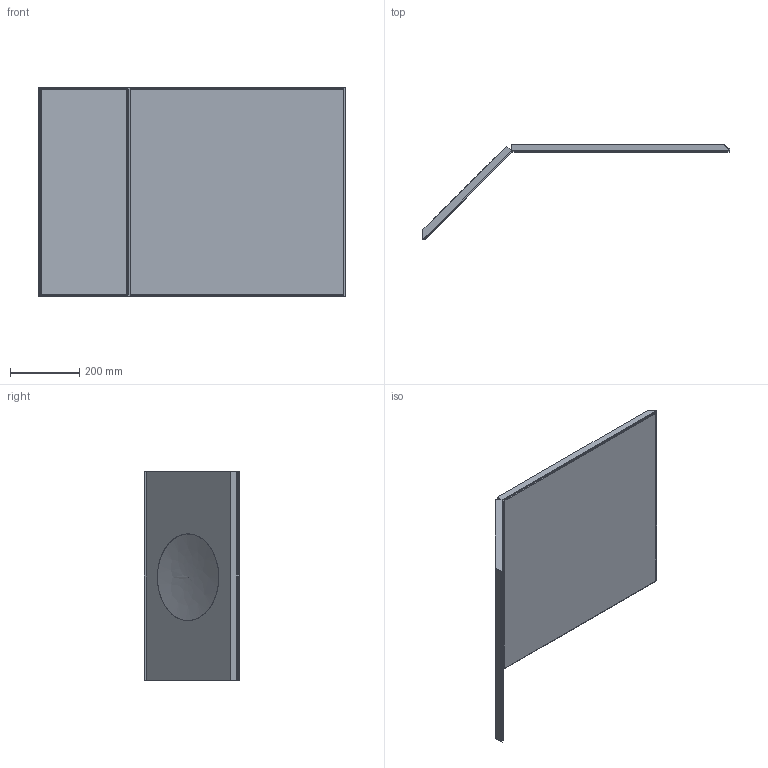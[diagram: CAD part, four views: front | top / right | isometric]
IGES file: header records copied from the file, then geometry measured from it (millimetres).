
Start section: Data from Parasolid IGES Translator 19.0.9, Copyright(c) 2006 Siemens PL M Software. All Rights Reserved.
Global section: file name: noorth-mirror-H 60 D 2,5 W 99_4235.igs; native system: By Siemens PLM Incorporated; preprocessor: XPlus GENERIC/IGES 19.0.9; author: Noname; organization: Noname; date: 20210721.091619; units: metre
Bounding box: 887.36 x 274.85 x 600 mm (x, y, z)
Volume: 13056203.2 mm3; surface area: 2605470.2 mm2
Topology: 7 solids, 7 shells, 101 faces, 215 edges, 127 vertices
Faces by surface type: plane 83, cylinder 15, bspline 3
Full cylindrical faces by diameter (mm): 250 x1
